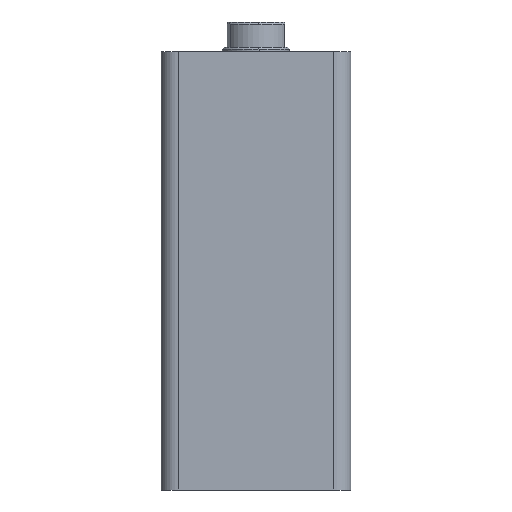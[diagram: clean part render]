
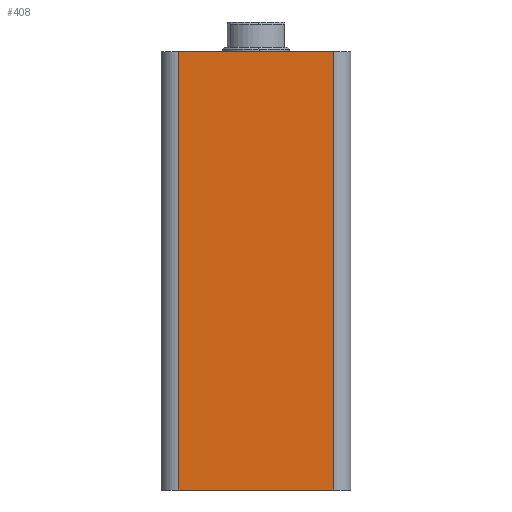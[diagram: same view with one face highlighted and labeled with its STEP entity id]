
A CAD part, front view. The second image highlights one B-rep face of the part: STEP entity #408.
In plain terms, the highlighted planar face has unit normal (0, -1, 0).
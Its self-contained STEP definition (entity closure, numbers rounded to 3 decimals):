
#121 = VERTEX_POINT ( 'NONE', #8256 ) ;
#408 = ADVANCED_FACE ( 'NONE', ( #9076 ), #9161, .F. ) ;
#768 = CARTESIAN_POINT ( 'NONE',  ( 41., 0., 104. ) ) ;
#1091 = CARTESIAN_POINT ( 'NONE',  ( 41., 0., 0. ) ) ;
#1838 = EDGE_CURVE ( 'NONE', #121, #15643, #10301, .T. ) ;
#2390 = VERTEX_POINT ( 'NONE', #4578 ) ;
#2406 = DIRECTION ( 'NONE',  ( 1., 0., 0. ) ) ;
#3696 = CARTESIAN_POINT ( 'NONE',  ( 0., 0., 0. ) ) ;
#4159 = CARTESIAN_POINT ( 'NONE',  ( 0., 0., 104. ) ) ;
#4283 = CARTESIAN_POINT ( 'NONE',  ( 4., 0., 104. ) ) ;
#4578 = CARTESIAN_POINT ( 'NONE',  ( 4., 0., 0. ) ) ;
#4800 = DIRECTION ( 'NONE',  ( 1., 0., 0. ) ) ;
#5069 = EDGE_CURVE ( 'NONE', #121, #2390, #8097, .T. ) ;
#5479 = ORIENTED_EDGE ( 'NONE', *, *, #16669, .T. ) ;
#5707 = ORIENTED_EDGE ( 'NONE', *, *, #1838, .F. ) ;
#5854 = VECTOR ( 'NONE', #4800, 1000. ) ;
#6075 = DIRECTION ( 'NONE',  ( 0., 0., 1. ) ) ;
#6238 = LINE ( 'NONE', #768, #15088 ) ;
#8097 = LINE ( 'NONE', #4283, #9757 ) ;
#8256 = CARTESIAN_POINT ( 'NONE',  ( 4., 0., 104. ) ) ;
#8745 = AXIS2_PLACEMENT_3D ( 'NONE', #4159, #11989, #9327 ) ;
#8926 = VERTEX_POINT ( 'NONE', #1091 ) ;
#9076 = FACE_OUTER_BOUND ( 'NONE', #13249, .T. ) ;
#9161 = PLANE ( 'NONE',  #8745 ) ;
#9327 = DIRECTION ( 'NONE',  ( 0., 0., 1. ) ) ;
#9424 = VECTOR ( 'NONE', #2406, 1000. ) ;
#9757 = VECTOR ( 'NONE', #12038, 1000. ) ;
#10210 = CARTESIAN_POINT ( 'NONE',  ( 0., 0., 104. ) ) ;
#10301 = LINE ( 'NONE', #10210, #9424 ) ;
#11989 = DIRECTION ( 'NONE',  ( 0., 1., 0. ) ) ;
#12038 = DIRECTION ( 'NONE',  ( 0., 0., -1. ) ) ;
#13249 = EDGE_LOOP ( 'NONE', ( #5479, #16311, #5707, #14641 ) ) ;
#14641 = ORIENTED_EDGE ( 'NONE', *, *, #5069, .T. ) ;
#15088 = VECTOR ( 'NONE', #6075, 1000. ) ;
#15123 = LINE ( 'NONE', #3696, #5854 ) ;
#15373 = CARTESIAN_POINT ( 'NONE',  ( 41., 0., 104. ) ) ;
#15643 = VERTEX_POINT ( 'NONE', #15373 ) ;
#15946 = EDGE_CURVE ( 'NONE', #8926, #15643, #6238, .T. ) ;
#16311 = ORIENTED_EDGE ( 'NONE', *, *, #15946, .T. ) ;
#16669 = EDGE_CURVE ( 'NONE', #2390, #8926, #15123, .T. ) ;
